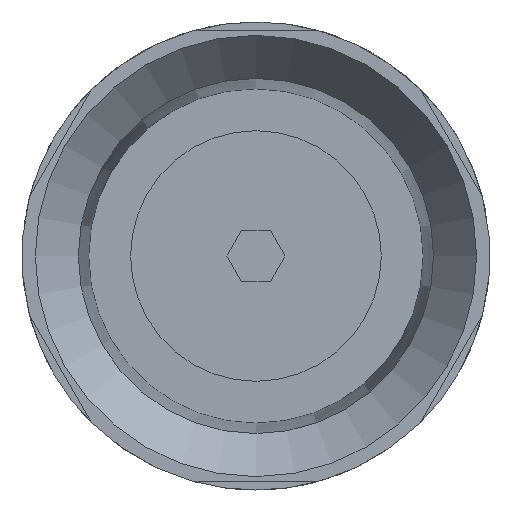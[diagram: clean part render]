
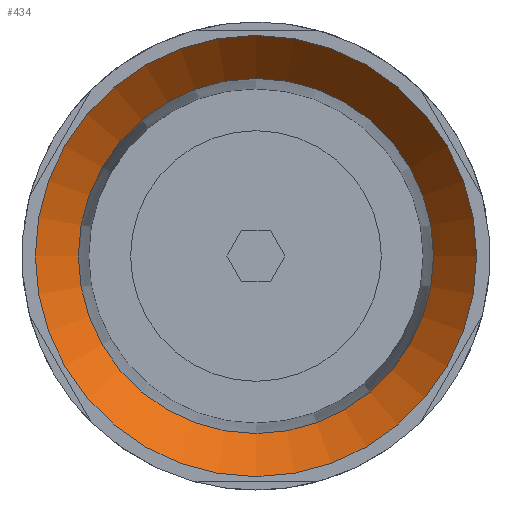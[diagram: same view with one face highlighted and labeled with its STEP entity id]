
A CAD part, front view. The second image highlights one B-rep face of the part: STEP entity #434.
In plain terms, the highlighted conical face has half-angle 40.641 degrees and reference radius 21.25 mm.
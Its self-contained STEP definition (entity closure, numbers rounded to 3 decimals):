
#434=ADVANCED_FACE('',(#628,#629),#630,.F.);
#628=FACE_OUTER_BOUND('',#931,.T.);
#629=FACE_BOUND('',#932,.T.);
#630=CONICAL_SURFACE('',#933,21.25,0.709);
#931=EDGE_LOOP('',(#1458));
#932=EDGE_LOOP('',(#1459));
#933=AXIS2_PLACEMENT_3D('',#1460,#1461,#1462);
#1458=ORIENTED_EDGE('',*,*,#2245,.T.);
#1459=ORIENTED_EDGE('',*,*,#2246,.F.);
#1460=CARTESIAN_POINT('',(0.0,0.0,6.0));
#1461=DIRECTION('',(0.0,0.,-1.0));
#1462=DIRECTION('',(0.0,1.0,0.));
#2245=EDGE_CURVE('',#2621,#2621,#2622,.T.);
#2246=EDGE_CURVE('',#2623,#2623,#2624,.T.);
#2621=VERTEX_POINT('',#3263);
#2622=CIRCLE('',#3264,26.4);
#2623=VERTEX_POINT('',#3265);
#2624=CIRCLE('',#3266,21.25);
#3263=CARTESIAN_POINT('',(0.0,26.4,0.));
#3264=AXIS2_PLACEMENT_3D('',#4080,#4081,#4082);
#3265=CARTESIAN_POINT('',(0.0,21.25,6.0));
#3266=AXIS2_PLACEMENT_3D('',#4083,#4084,#4085);
#4080=CARTESIAN_POINT('',(0.0,0.0,0.0));
#4081=DIRECTION('',(0.0,0.,-1.0));
#4082=DIRECTION('',(0.0,1.0,0.));
#4083=CARTESIAN_POINT('',(0.0,0.0,6.0));
#4084=DIRECTION('',(0.0,0.,-1.0));
#4085=DIRECTION('',(0.0,1.0,0.));
